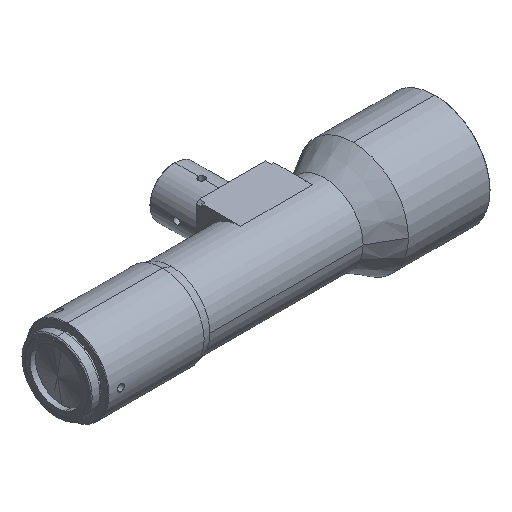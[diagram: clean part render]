
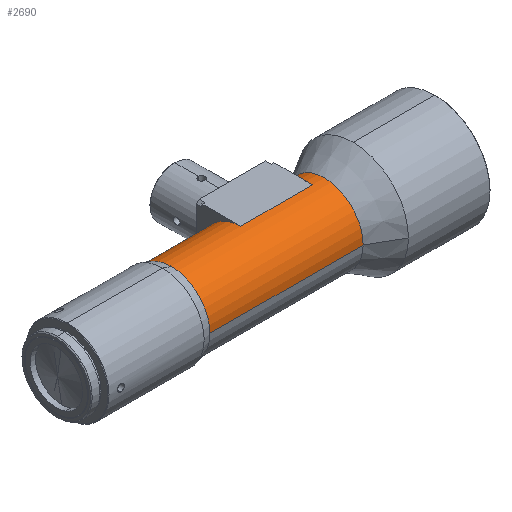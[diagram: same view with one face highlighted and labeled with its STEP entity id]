
A CAD part, isometric view. The second image highlights one B-rep face of the part: STEP entity #2690.
In plain terms, the highlighted cylindrical face has radius 14 mm (diameter 28 mm), a partial arc.
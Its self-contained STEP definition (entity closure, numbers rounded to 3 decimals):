
#19 = CIRCLE ( 'NONE', #310, 14. ) ;
#65 = VECTOR ( 'NONE', #4285, 1000. ) ;
#68 = LINE ( 'NONE', #4283, #65 ) ;
#185 = EDGE_LOOP ( 'NONE', ( #3062, #2731, #3066, #3068, #2977, #2923, #2941, #2957, #2998 ) ) ;
#241 = LINE ( 'NONE', #1677, #252 ) ;
#252 = VECTOR ( 'NONE', #1675, 1000. ) ;
#310 = AXIS2_PLACEMENT_3D ( 'NONE', #2494, #1909, #2557 ) ;
#355 = EDGE_CURVE ( 'NONE', #3842, #4036, #68, .T. ) ;
#381 = EDGE_CURVE ( 'NONE', #3927, #3968, #19, .T. ) ;
#473 = EDGE_CURVE ( 'NONE', #3850, #3968, #241, .T. ) ;
#570 = EDGE_CURVE ( 'NONE', #3847, #3850, #3784, .T. ) ;
#572 = EDGE_CURVE ( 'NONE', #3842, #3981, #3663, .T. ) ;
#579 = EDGE_CURVE ( 'NONE', #3844, #3988, #3555, .T. ) ;
#581 = EDGE_CURVE ( 'NONE', #3988, #3847, #3501, .T. ) ;
#586 = AXIS2_PLACEMENT_3D ( 'NONE', #1924, #2251, #2214 ) ;
#607 = EDGE_CURVE ( 'NONE', #3981, #3844, #3291, .T. ) ;
#655 = EDGE_CURVE ( 'NONE', #4036, #3927, #3300, .T. ) ;
#687 = AXIS2_PLACEMENT_3D ( 'NONE', #2211, #2034, #1656 ) ;
#688 = AXIS2_PLACEMENT_3D ( 'NONE', #2335, #1916, #1918 ) ;
#700 = AXIS2_PLACEMENT_3D ( 'NONE', #2254, #2478, #1877 ) ;
#771 = CARTESIAN_POINT ( 'NONE',  ( -48.822, 0., 14. ) ) ;
#785 = CARTESIAN_POINT ( 'NONE',  ( -48.822, 14., 0. ) ) ;
#826 = CARTESIAN_POINT ( 'NONE',  ( 6.6, 14., 0. ) ) ;
#833 = CARTESIAN_POINT ( 'NONE',  ( 2.3, 0., 14. ) ) ;
#883 = CARTESIAN_POINT ( 'NONE',  ( -48.822, -14., 0. ) ) ;
#983 = DIRECTION ( 'NONE',  ( -1., 0., 0. ) ) ;
#1013 = CARTESIAN_POINT ( 'NONE',  ( 2.3, 14., 0. ) ) ;
#1250 = CARTESIAN_POINT ( 'NONE',  ( -23.7, 14., 0. ) ) ;
#1338 = CARTESIAN_POINT ( 'NONE',  ( 6.6, -14., 0. ) ) ;
#1440 = DIRECTION ( 'NONE',  ( 0., -1., 0. ) ) ;
#1482 = CARTESIAN_POINT ( 'NONE',  ( 6.6, 0., 0. ) ) ;
#1521 = CARTESIAN_POINT ( 'NONE',  ( -23.7, 0., 14. ) ) ;
#1637 = CARTESIAN_POINT ( 'NONE',  ( 6.6, 14., 0. ) ) ;
#1656 = DIRECTION ( 'NONE',  ( 0., 0., 1. ) ) ;
#1675 = DIRECTION ( 'NONE',  ( -1., 0., 0. ) ) ;
#1677 = CARTESIAN_POINT ( 'NONE',  ( 6.6, 14., 0. ) ) ;
#1877 = DIRECTION ( 'NONE',  ( 0., -1., 0. ) ) ;
#1907 = CARTESIAN_POINT ( 'NONE',  ( -10.7, 0., 14. ) ) ;
#1909 = DIRECTION ( 'NONE',  ( -1., 0., 0. ) ) ;
#1910 = DIRECTION ( 'NONE',  ( -1., 0., 0. ) ) ;
#1916 = DIRECTION ( 'NONE',  ( 1., 0., 0. ) ) ;
#1918 = DIRECTION ( 'NONE',  ( 0., 0., 1. ) ) ;
#1924 = CARTESIAN_POINT ( 'NONE',  ( 6.6, 0., 0. ) ) ;
#1993 = DIRECTION ( 'NONE',  ( -1., 0., 0. ) ) ;
#2034 = DIRECTION ( 'NONE',  ( -1., 0., 0. ) ) ;
#2211 = CARTESIAN_POINT ( 'NONE',  ( -48.822, 0., 0. ) ) ;
#2214 = DIRECTION ( 'NONE',  ( 0., 0., -1. ) ) ;
#2251 = DIRECTION ( 'NONE',  ( -1., 0., 0. ) ) ;
#2254 = CARTESIAN_POINT ( 'NONE',  ( -23.7, 0., 0. ) ) ;
#2335 = CARTESIAN_POINT ( 'NONE',  ( 2.3, 0., 0. ) ) ;
#2478 = DIRECTION ( 'NONE',  ( -1., 0., 0. ) ) ;
#2494 = CARTESIAN_POINT ( 'NONE',  ( -48.822, 0., 0. ) ) ;
#2557 = DIRECTION ( 'NONE',  ( 0., 0., 1. ) ) ;
#2690 = ADVANCED_FACE ( 'NONE', ( #3361 ), #3482, .T. ) ;
#2731 = ORIENTED_EDGE ( 'NONE', *, *, #607, .T. ) ;
#2923 = ORIENTED_EDGE ( 'NONE', *, *, #473, .T. ) ;
#2941 = ORIENTED_EDGE ( 'NONE', *, *, #381, .F. ) ;
#2957 = ORIENTED_EDGE ( 'NONE', *, *, #655, .F. ) ;
#2977 = ORIENTED_EDGE ( 'NONE', *, *, #570, .T. ) ;
#2998 = ORIENTED_EDGE ( 'NONE', *, *, #355, .F. ) ;
#3062 = ORIENTED_EDGE ( 'NONE', *, *, #572, .T. ) ;
#3066 = ORIENTED_EDGE ( 'NONE', *, *, #579, .T. ) ;
#3068 = ORIENTED_EDGE ( 'NONE', *, *, #581, .T. ) ;
#3291 = LINE ( 'NONE', #1637, #3563 ) ;
#3300 = CIRCLE ( 'NONE', #687, 14. ) ;
#3332 = VECTOR ( 'NONE', #1910, 1000. ) ;
#3361 = FACE_OUTER_BOUND ( 'NONE', #185, .T. ) ;
#3482 = CYLINDRICAL_SURFACE ( 'NONE', #4061, 14. ) ;
#3501 = LINE ( 'NONE', #1907, #3332 ) ;
#3555 = CIRCLE ( 'NONE', #688, 14. ) ;
#3563 = VECTOR ( 'NONE', #1993, 1000. ) ;
#3663 = CIRCLE ( 'NONE', #586, 14. ) ;
#3784 = CIRCLE ( 'NONE', #700, 14. ) ;
#3842 = VERTEX_POINT ( 'NONE', #1338 ) ;
#3844 = VERTEX_POINT ( 'NONE', #1013 ) ;
#3847 = VERTEX_POINT ( 'NONE', #1521 ) ;
#3850 = VERTEX_POINT ( 'NONE', #1250 ) ;
#3927 = VERTEX_POINT ( 'NONE', #771 ) ;
#3968 = VERTEX_POINT ( 'NONE', #785 ) ;
#3981 = VERTEX_POINT ( 'NONE', #826 ) ;
#3988 = VERTEX_POINT ( 'NONE', #833 ) ;
#4036 = VERTEX_POINT ( 'NONE', #883 ) ;
#4061 = AXIS2_PLACEMENT_3D ( 'NONE', #1482, #983, #1440 ) ;
#4283 = CARTESIAN_POINT ( 'NONE',  ( 6.6, -14., 0. ) ) ;
#4285 = DIRECTION ( 'NONE',  ( -1., 0., 0. ) ) ;
